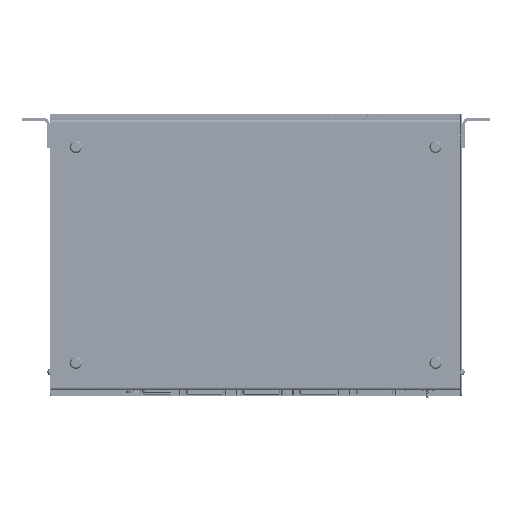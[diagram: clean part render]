
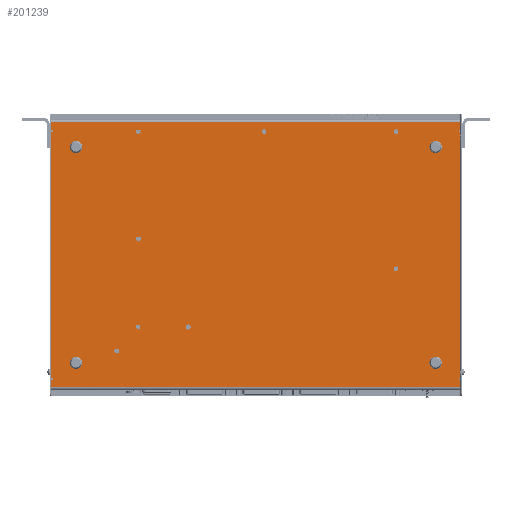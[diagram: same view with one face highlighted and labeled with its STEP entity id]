
A CAD part, front view. The second image highlights one B-rep face of the part: STEP entity #201239.
In plain terms, the highlighted planar face has unit normal (0, -1, 0).
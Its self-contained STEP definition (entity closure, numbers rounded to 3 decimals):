
#9628=FACE_BOUND('',#33062,.T.);
#9629=FACE_BOUND('',#33063,.T.);
#9630=FACE_BOUND('',#33064,.T.);
#9631=FACE_BOUND('',#33065,.T.);
#9632=FACE_BOUND('',#33066,.T.);
#9633=FACE_BOUND('',#33067,.T.);
#9634=FACE_BOUND('',#33068,.T.);
#9635=FACE_BOUND('',#33069,.T.);
#12740=PLANE('',#210295);
#21594=FACE_OUTER_BOUND('',#33061,.T.);
#33061=EDGE_LOOP('',(#163245,#163246,#163247,#163248,#163249,#163250,#163251,
#163252,#163253,#163254,#163255,#163256,#163257,#163258,#163259,#163260,
#163261,#163262,#163263,#163264));
#33062=EDGE_LOOP('',(#163265));
#33063=EDGE_LOOP('',(#163266));
#33064=EDGE_LOOP('',(#163267));
#33065=EDGE_LOOP('',(#163268));
#33066=EDGE_LOOP('',(#163269));
#33067=EDGE_LOOP('',(#163270));
#33068=EDGE_LOOP('',(#163271));
#33069=EDGE_LOOP('',(#163272));
#40231=CIRCLE('',#210259,0.083);
#40233=CIRCLE('',#210262,0.083);
#40235=CIRCLE('',#210265,0.083);
#40237=CIRCLE('',#210268,0.083);
#40239=CIRCLE('',#210271,0.083);
#40241=CIRCLE('',#210274,0.068);
#40243=CIRCLE('',#210277,0.083);
#40245=CIRCLE('',#210280,0.083);
#57292=LINE('',#335612,#76639);
#57297=LINE('',#335624,#76644);
#57298=LINE('',#335631,#76645);
#57299=LINE('',#335635,#76646);
#57313=LINE('',#335670,#76660);
#57325=LINE('',#335703,#76672);
#57335=LINE('',#335724,#76682);
#57349=LINE('',#335783,#76696);
#57352=LINE('',#335789,#76699);
#57355=LINE('',#335794,#76702);
#57357=LINE('',#335798,#76704);
#57360=LINE('',#335804,#76707);
#57363=LINE('',#335809,#76710);
#57365=LINE('',#335813,#76712);
#57368=LINE('',#335819,#76715);
#57371=LINE('',#335824,#76718);
#57373=LINE('',#335828,#76720);
#57376=LINE('',#335834,#76723);
#57379=LINE('',#335840,#76726);
#57382=LINE('',#335845,#76729);
#76639=VECTOR('',#231452,0.394);
#76644=VECTOR('',#231461,0.394);
#76645=VECTOR('',#231470,0.394);
#76646=VECTOR('',#231475,0.394);
#76660=VECTOR('',#231505,0.394);
#76672=VECTOR('',#231541,0.394);
#76682=VECTOR('',#231557,0.394);
#76696=VECTOR('',#231623,0.394);
#76699=VECTOR('',#231628,0.394);
#76702=VECTOR('',#231633,0.394);
#76704=VECTOR('',#231637,0.394);
#76707=VECTOR('',#231642,0.394);
#76710=VECTOR('',#231647,0.394);
#76712=VECTOR('',#231651,0.394);
#76715=VECTOR('',#231656,0.394);
#76718=VECTOR('',#231661,0.394);
#76720=VECTOR('',#231665,0.394);
#76723=VECTOR('',#231670,0.394);
#76726=VECTOR('',#231675,0.394);
#76729=VECTOR('',#231680,0.394);
#97061=VERTEX_POINT('',#335608);
#97062=VERTEX_POINT('',#335610);
#97067=VERTEX_POINT('',#335622);
#97068=VERTEX_POINT('',#335627);
#97069=VERTEX_POINT('',#335629);
#97070=VERTEX_POINT('',#335634);
#97083=VERTEX_POINT('',#335668);
#97091=VERTEX_POINT('',#335701);
#97092=VERTEX_POINT('',#335702);
#97099=VERTEX_POINT('',#335722);
#97100=VERTEX_POINT('',#335723);
#97104=VERTEX_POINT('',#335736);
#97106=VERTEX_POINT('',#335742);
#97108=VERTEX_POINT('',#335748);
#97110=VERTEX_POINT('',#335754);
#97112=VERTEX_POINT('',#335760);
#97114=VERTEX_POINT('',#335766);
#97116=VERTEX_POINT('',#335772);
#97118=VERTEX_POINT('',#335778);
#97119=VERTEX_POINT('',#335782);
#97121=VERTEX_POINT('',#335788);
#97123=VERTEX_POINT('',#335797);
#97125=VERTEX_POINT('',#335803);
#97127=VERTEX_POINT('',#335812);
#97129=VERTEX_POINT('',#335818);
#97131=VERTEX_POINT('',#335827);
#97133=VERTEX_POINT('',#335833);
#97135=VERTEX_POINT('',#335839);
#120522=EDGE_CURVE('',#97062,#97061,#57292,.T.);
#120528=EDGE_CURVE('',#97067,#97062,#57297,.T.);
#120531=EDGE_CURVE('',#97069,#97068,#57298,.T.);
#120532=EDGE_CURVE('',#97068,#97070,#57299,.T.);
#120550=EDGE_CURVE('',#97083,#97069,#57313,.T.);
#120565=EDGE_CURVE('',#97091,#97092,#57325,.T.);
#120575=EDGE_CURVE('',#97099,#97100,#57335,.T.);
#120583=EDGE_CURVE('',#97104,#97104,#40231,.T.);
#120586=EDGE_CURVE('',#97106,#97106,#40233,.T.);
#120589=EDGE_CURVE('',#97108,#97108,#40235,.T.);
#120592=EDGE_CURVE('',#97110,#97110,#40237,.T.);
#120595=EDGE_CURVE('',#97112,#97112,#40239,.T.);
#120598=EDGE_CURVE('',#97114,#97114,#40241,.T.);
#120601=EDGE_CURVE('',#97116,#97116,#40243,.T.);
#120604=EDGE_CURVE('',#97118,#97118,#40245,.T.);
#120605=EDGE_CURVE('',#97067,#97119,#57349,.T.);
#120608=EDGE_CURVE('',#97121,#97119,#57352,.T.);
#120611=EDGE_CURVE('',#97100,#97121,#57355,.T.);
#120613=EDGE_CURVE('',#97099,#97123,#57357,.T.);
#120616=EDGE_CURVE('',#97123,#97125,#57360,.T.);
#120619=EDGE_CURVE('',#97125,#97070,#57363,.T.);
#120621=EDGE_CURVE('',#97083,#97127,#57365,.T.);
#120624=EDGE_CURVE('',#97129,#97127,#57368,.T.);
#120627=EDGE_CURVE('',#97092,#97129,#57371,.T.);
#120629=EDGE_CURVE('',#97091,#97131,#57373,.T.);
#120632=EDGE_CURVE('',#97131,#97133,#57376,.T.);
#120635=EDGE_CURVE('',#97133,#97135,#57379,.T.);
#120638=EDGE_CURVE('',#97061,#97135,#57382,.T.);
#163245=ORIENTED_EDGE('',*,*,#120522,.F.);
#163246=ORIENTED_EDGE('',*,*,#120528,.F.);
#163247=ORIENTED_EDGE('',*,*,#120605,.T.);
#163248=ORIENTED_EDGE('',*,*,#120608,.F.);
#163249=ORIENTED_EDGE('',*,*,#120611,.F.);
#163250=ORIENTED_EDGE('',*,*,#120575,.F.);
#163251=ORIENTED_EDGE('',*,*,#120613,.T.);
#163252=ORIENTED_EDGE('',*,*,#120616,.T.);
#163253=ORIENTED_EDGE('',*,*,#120619,.T.);
#163254=ORIENTED_EDGE('',*,*,#120532,.F.);
#163255=ORIENTED_EDGE('',*,*,#120531,.F.);
#163256=ORIENTED_EDGE('',*,*,#120550,.F.);
#163257=ORIENTED_EDGE('',*,*,#120621,.T.);
#163258=ORIENTED_EDGE('',*,*,#120624,.F.);
#163259=ORIENTED_EDGE('',*,*,#120627,.F.);
#163260=ORIENTED_EDGE('',*,*,#120565,.F.);
#163261=ORIENTED_EDGE('',*,*,#120629,.T.);
#163262=ORIENTED_EDGE('',*,*,#120632,.T.);
#163263=ORIENTED_EDGE('',*,*,#120635,.T.);
#163264=ORIENTED_EDGE('',*,*,#120638,.F.);
#163265=ORIENTED_EDGE('',*,*,#120604,.F.);
#163266=ORIENTED_EDGE('',*,*,#120601,.F.);
#163267=ORIENTED_EDGE('',*,*,#120598,.F.);
#163268=ORIENTED_EDGE('',*,*,#120595,.F.);
#163269=ORIENTED_EDGE('',*,*,#120592,.F.);
#163270=ORIENTED_EDGE('',*,*,#120589,.F.);
#163271=ORIENTED_EDGE('',*,*,#120586,.F.);
#163272=ORIENTED_EDGE('',*,*,#120583,.F.);
#201239=ADVANCED_FACE('',(#21594,#9628,#9629,#9630,#9631,#9632,#9633,#9634,
#9635),#12740,.F.);
#210259=AXIS2_PLACEMENT_3D('',#335738,#231570,#231571);
#210262=AXIS2_PLACEMENT_3D('',#335744,#231577,#231578);
#210265=AXIS2_PLACEMENT_3D('',#335750,#231584,#231585);
#210268=AXIS2_PLACEMENT_3D('',#335756,#231591,#231592);
#210271=AXIS2_PLACEMENT_3D('',#335762,#231598,#231599);
#210274=AXIS2_PLACEMENT_3D('',#335768,#231605,#231606);
#210277=AXIS2_PLACEMENT_3D('',#335774,#231612,#231613);
#210280=AXIS2_PLACEMENT_3D('',#335780,#231619,#231620);
#210295=AXIS2_PLACEMENT_3D('',#335848,#231684,#231685);
#231452=DIRECTION('',(1.,0.,0.));
#231461=DIRECTION('',(0.,0.,1.));
#231470=DIRECTION('',(-1.,0.,0.));
#231475=DIRECTION('',(0.,0.,1.));
#231505=DIRECTION('',(0.,0.,-1.));
#231541=DIRECTION('',(0.,0.,-1.));
#231557=DIRECTION('',(0.,0.,1.));
#231570=DIRECTION('center_axis',(0.,-1.,0.));
#231571=DIRECTION('ref_axis',(1.,0.,0.));
#231577=DIRECTION('center_axis',(0.,-1.,0.));
#231578=DIRECTION('ref_axis',(1.,0.,0.));
#231584=DIRECTION('center_axis',(0.,-1.,0.));
#231585=DIRECTION('ref_axis',(1.,0.,0.));
#231591=DIRECTION('center_axis',(0.,-1.,0.));
#231592=DIRECTION('ref_axis',(1.,0.,0.));
#231598=DIRECTION('center_axis',(0.,-1.,0.));
#231599=DIRECTION('ref_axis',(1.,0.,0.));
#231605=DIRECTION('center_axis',(0.,-1.,0.));
#231606=DIRECTION('ref_axis',(1.,0.,0.));
#231612=DIRECTION('center_axis',(0.,-1.,0.));
#231613=DIRECTION('ref_axis',(1.,0.,0.));
#231619=DIRECTION('center_axis',(0.,-1.,0.));
#231620=DIRECTION('ref_axis',(1.,0.,0.));
#231623=DIRECTION('',(1.,0.,0.));
#231628=DIRECTION('',(0.,0.,1.));
#231633=DIRECTION('',(1.,0.,0.));
#231637=DIRECTION('',(1.,0.,0.));
#231642=DIRECTION('',(0.,0.,-1.));
#231647=DIRECTION('',(-1.,0.,0.));
#231651=DIRECTION('',(-1.,0.,0.));
#231656=DIRECTION('',(0.,0.,-1.));
#231661=DIRECTION('',(-1.,0.,0.));
#231665=DIRECTION('',(-1.,0.,0.));
#231670=DIRECTION('',(0.,0.,1.));
#231675=DIRECTION('',(1.,0.,0.));
#231680=DIRECTION('',(0.,0.,-1.));
#231684=DIRECTION('center_axis',(0.,1.,0.));
#231685=DIRECTION('ref_axis',(1.,0.,0.));
#335608=CARTESIAN_POINT('',(16.601,0.,-0.12));
#335610=CARTESIAN_POINT('',(0.,0.,-0.12));
#335612=CARTESIAN_POINT('',(4.15,0.,-0.12));
#335622=CARTESIAN_POINT('',(0.,0.,-0.44));
#335624=CARTESIAN_POINT('',(0.,0.,-0.44));
#335627=CARTESIAN_POINT('',(0.,0.,-10.885));
#335629=CARTESIAN_POINT('',(16.601,0.,-10.885));
#335631=CARTESIAN_POINT('',(12.451,0.,-10.885));
#335634=CARTESIAN_POINT('',(0.,0.,-10.565));
#335635=CARTESIAN_POINT('',(0.,0.,-11.005));
#335668=CARTESIAN_POINT('',(16.601,0.,-10.565));
#335670=CARTESIAN_POINT('',(16.601,0.,-10.565));
#335701=CARTESIAN_POINT('',(16.606,0.,-0.5));
#335702=CARTESIAN_POINT('',(16.606,0.,-10.505));
#335703=CARTESIAN_POINT('',(16.606,0.,-0.5));
#335722=CARTESIAN_POINT('',(-0.005,0.,-10.505));
#335723=CARTESIAN_POINT('',(-0.005,0.,-0.5));
#335724=CARTESIAN_POINT('',(-0.005,0.,-10.505));
#335736=CARTESIAN_POINT('',(8.555,0.,-0.5));
#335738=CARTESIAN_POINT('Origin',(8.638,0.,-0.5));
#335742=CARTESIAN_POINT('',(3.455,0.,-8.43));
#335744=CARTESIAN_POINT('Origin',(3.538,0.,-8.43));
#335748=CARTESIAN_POINT('',(3.455,0.,-4.85));
#335750=CARTESIAN_POINT('Origin',(3.538,0.,-4.85));
#335754=CARTESIAN_POINT('',(3.455,0.,-0.5));
#335756=CARTESIAN_POINT('Origin',(3.538,0.,-0.5));
#335760=CARTESIAN_POINT('',(13.915,0.,-0.5));
#335762=CARTESIAN_POINT('Origin',(13.998,0.,-0.5));
#335766=CARTESIAN_POINT('',(2.589,0.,-9.405));
#335768=CARTESIAN_POINT('Origin',(2.658,0.,-9.405));
#335772=CARTESIAN_POINT('',(13.915,0.,-6.07));
#335774=CARTESIAN_POINT('Origin',(13.998,0.,-6.07));
#335778=CARTESIAN_POINT('',(5.48,0.,-8.43));
#335780=CARTESIAN_POINT('Origin',(5.563,0.,-8.43));
#335782=CARTESIAN_POINT('',(0.065,0.,-0.44));
#335783=CARTESIAN_POINT('',(0.,0.,-0.44));
#335788=CARTESIAN_POINT('',(0.065,0.,-0.5));
#335789=CARTESIAN_POINT('',(0.065,0.,-0.5));
#335794=CARTESIAN_POINT('',(-0.005,0.,-0.5));
#335797=CARTESIAN_POINT('',(0.06,0.,-10.505));
#335798=CARTESIAN_POINT('',(0.05,0.,-10.505));
#335803=CARTESIAN_POINT('',(0.06,0.,-10.565));
#335804=CARTESIAN_POINT('',(0.06,0.,-10.505));
#335809=CARTESIAN_POINT('',(0.06,0.,-10.565));
#335812=CARTESIAN_POINT('',(16.536,0.,-10.565));
#335813=CARTESIAN_POINT('',(16.601,0.,-10.565));
#335818=CARTESIAN_POINT('',(16.536,0.,-10.505));
#335819=CARTESIAN_POINT('',(16.536,0.,-10.505));
#335824=CARTESIAN_POINT('',(16.606,0.,-10.505));
#335827=CARTESIAN_POINT('',(16.541,0.,-0.5));
#335828=CARTESIAN_POINT('',(16.551,0.,-0.5));
#335833=CARTESIAN_POINT('',(16.541,0.,-0.44));
#335834=CARTESIAN_POINT('',(16.541,0.,-0.5));
#335839=CARTESIAN_POINT('',(16.601,0.,-0.44));
#335840=CARTESIAN_POINT('',(16.541,0.,-0.44));
#335845=CARTESIAN_POINT('',(16.601,0.,0.));
#335848=CARTESIAN_POINT('Origin',(8.301,0.,-5.503));
